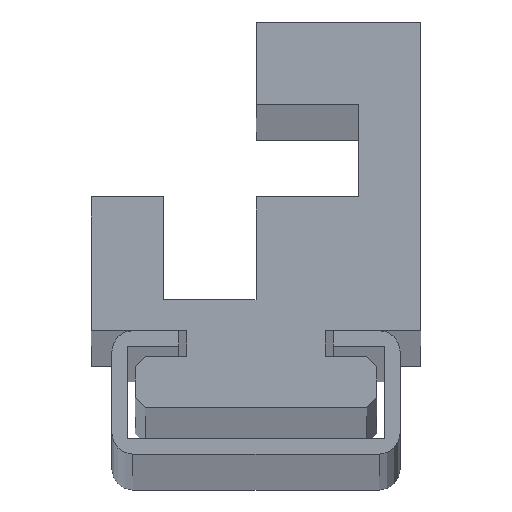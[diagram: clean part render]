
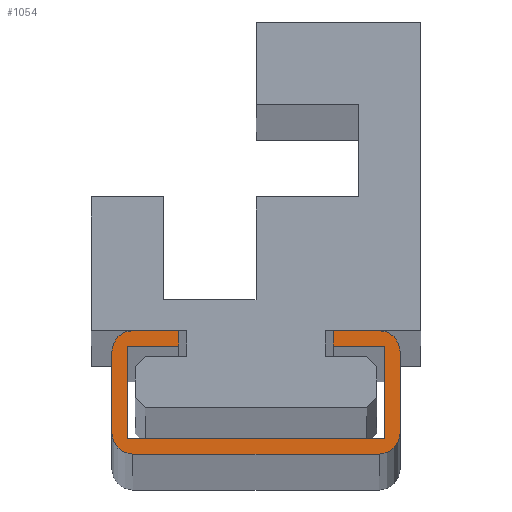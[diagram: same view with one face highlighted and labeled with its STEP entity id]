
A CAD part, top view. The second image highlights one B-rep face of the part: STEP entity #1054.
In plain terms, the highlighted planar face has unit normal (0, 0, 1).
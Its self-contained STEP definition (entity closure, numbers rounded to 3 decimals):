
#2 = LINE ( 'NONE', #567, #1009 ) ;
#16 = VERTEX_POINT ( 'NONE', #615 ) ;
#29 = CARTESIAN_POINT ( 'NONE',  ( 0., 10., 2000. ) ) ;
#30 = EDGE_LOOP ( 'NONE', ( #1495, #939, #748, #121, #330, #108, #325, #400, #1287, #1509, #1267, #1240, #85, #280, #868, #561 ) ) ;
#37 = LINE ( 'NONE', #1427, #530 ) ;
#48 = DIRECTION ( 'NONE',  ( 0., -1., 0. ) ) ;
#63 = CARTESIAN_POINT ( 'NONE',  ( 26., 10., 2000. ) ) ;
#68 = PLANE ( 'NONE',  #148 ) ;
#77 = CARTESIAN_POINT ( 'NONE',  ( 2., 2., 2000. ) ) ;
#78 = EDGE_CURVE ( 'NONE', #1441, #1166, #941, .T. ) ;
#85 = ORIENTED_EDGE ( 'NONE', *, *, #589, .T. ) ;
#92 = DIRECTION ( 'NONE',  ( 1., 0., 0. ) ) ;
#94 = EDGE_CURVE ( 'NONE', #438, #369, #420, .T. ) ;
#108 = ORIENTED_EDGE ( 'NONE', *, *, #78, .T. ) ;
#121 = ORIENTED_EDGE ( 'NONE', *, *, #925, .T. ) ;
#125 = CARTESIAN_POINT ( 'NONE',  ( 26.5, 1.5, 2000. ) ) ;
#146 = VERTEX_POINT ( 'NONE', #1243 ) ;
#148 = AXIS2_PLACEMENT_3D ( 'NONE', #389, #157, #1086 ) ;
#150 = DIRECTION ( 'NONE',  ( 1., 0., 0. ) ) ;
#157 = DIRECTION ( 'NONE',  ( 0., 0., 1. ) ) ;
#166 = LINE ( 'NONE', #196, #1085 ) ;
#174 = LINE ( 'NONE', #635, #747 ) ;
#196 = CARTESIAN_POINT ( 'NONE',  ( 1.5, 10.5, 2000. ) ) ;
#203 = DIRECTION ( 'NONE',  ( 0., 0., 1. ) ) ;
#221 = EDGE_CURVE ( 'NONE', #828, #261, #558, .T. ) ;
#222 = DIRECTION ( 'NONE',  ( 0., 1., 0. ) ) ;
#241 = VERTEX_POINT ( 'NONE', #1371 ) ;
#252 = DIRECTION ( 'NONE',  ( -1., 0., 0. ) ) ;
#257 = DIRECTION ( 'NONE',  ( 1., 0., 0. ) ) ;
#261 = VERTEX_POINT ( 'NONE', #1483 ) ;
#267 = CIRCLE ( 'NONE', #813, 2. ) ;
#278 = DIRECTION ( 'NONE',  ( 0., 1., 0. ) ) ;
#279 = DIRECTION ( 'NONE',  ( 1., 0., 0. ) ) ;
#280 = ORIENTED_EDGE ( 'NONE', *, *, #1351, .T. ) ;
#287 = EDGE_CURVE ( 'NONE', #146, #1193, #1145, .T. ) ;
#290 = CARTESIAN_POINT ( 'NONE',  ( 26.5, 10.5, 2000. ) ) ;
#300 = EDGE_CURVE ( 'NONE', #1355, #16, #2, .T. ) ;
#325 = ORIENTED_EDGE ( 'NONE', *, *, #961, .T. ) ;
#329 = LINE ( 'NONE', #125, #622 ) ;
#330 = ORIENTED_EDGE ( 'NONE', *, *, #518, .T. ) ;
#369 = VERTEX_POINT ( 'NONE', #463 ) ;
#389 = CARTESIAN_POINT ( 'NONE',  ( 6.5, 12., 2000. ) ) ;
#397 = CARTESIAN_POINT ( 'NONE',  ( 21.5, 10.5, 2000. ) ) ;
#400 = ORIENTED_EDGE ( 'NONE', *, *, #221, .T. ) ;
#410 = CIRCLE ( 'NONE', #696, 2. ) ;
#420 = LINE ( 'NONE', #435, #665 ) ;
#426 = EDGE_CURVE ( 'NONE', #369, #1355, #329, .T. ) ;
#435 = CARTESIAN_POINT ( 'NONE',  ( 26.5, 10.5, 2000. ) ) ;
#438 = VERTEX_POINT ( 'NONE', #290 ) ;
#439 = DIRECTION ( 'NONE',  ( 0., 0., 1. ) ) ;
#452 = VECTOR ( 'NONE', #252, 1000. ) ;
#463 = CARTESIAN_POINT ( 'NONE',  ( 26.5, 1.5, 2000. ) ) ;
#465 = VERTEX_POINT ( 'NONE', #1436 ) ;
#485 = DIRECTION ( 'NONE',  ( 0., 0., 1. ) ) ;
#507 = VERTEX_POINT ( 'NONE', #860 ) ;
#518 = EDGE_CURVE ( 'NONE', #465, #1441, #174, .T. ) ;
#530 = VECTOR ( 'NONE', #48, 1000. ) ;
#536 = DIRECTION ( 'NONE',  ( 1., 0., 0. ) ) ;
#548 = AXIS2_PLACEMENT_3D ( 'NONE', #63, #203, #1000 ) ;
#558 = LINE ( 'NONE', #1023, #1035 ) ;
#559 = EDGE_CURVE ( 'NONE', #1331, #930, #844, .T. ) ;
#560 = CARTESIAN_POINT ( 'NONE',  ( 6.5, 12., 2000. ) ) ;
#561 = ORIENTED_EDGE ( 'NONE', *, *, #678, .T. ) ;
#567 = CARTESIAN_POINT ( 'NONE',  ( 1.5, 1.5, 2000. ) ) ;
#581 = DIRECTION ( 'NONE',  ( -1., 0., 0. ) ) ;
#589 = EDGE_CURVE ( 'NONE', #16, #241, #166, .T. ) ;
#615 = CARTESIAN_POINT ( 'NONE',  ( 1.5, 10.5, 2000. ) ) ;
#622 = VECTOR ( 'NONE', #581, 1000. ) ;
#635 = CARTESIAN_POINT ( 'NONE',  ( 28., 0., 2000. ) ) ;
#643 = VECTOR ( 'NONE', #150, 1000. ) ;
#658 = CARTESIAN_POINT ( 'NONE',  ( 26., 12., 2000. ) ) ;
#665 = VECTOR ( 'NONE', #1453, 1000. ) ;
#678 = EDGE_CURVE ( 'NONE', #1193, #1223, #1349, .T. ) ;
#681 = VECTOR ( 'NONE', #278, 1000. ) ;
#689 = CARTESIAN_POINT ( 'NONE',  ( 28., 10., 2000. ) ) ;
#696 = AXIS2_PLACEMENT_3D ( 'NONE', #1418, #485, #257 ) ;
#704 = EDGE_CURVE ( 'NONE', #507, #1331, #267, .T. ) ;
#747 = VECTOR ( 'NONE', #1183, 1000. ) ;
#748 = ORIENTED_EDGE ( 'NONE', *, *, #559, .T. ) ;
#764 = DIRECTION ( 'NONE',  ( 1., 0., 0. ) ) ;
#771 = CARTESIAN_POINT ( 'NONE',  ( 2., 12., 2000. ) ) ;
#787 = VECTOR ( 'NONE', #1079, 1000. ) ;
#802 = CARTESIAN_POINT ( 'NONE',  ( 2., 0., 2000. ) ) ;
#813 = AXIS2_PLACEMENT_3D ( 'NONE', #77, #981, #536 ) ;
#825 = CARTESIAN_POINT ( 'NONE',  ( 28., 12., 2000. ) ) ;
#828 = VERTEX_POINT ( 'NONE', #1028 ) ;
#830 = LINE ( 'NONE', #967, #681 ) ;
#842 = LINE ( 'NONE', #397, #866 ) ;
#844 = LINE ( 'NONE', #1292, #643 ) ;
#860 = CARTESIAN_POINT ( 'NONE',  ( 0., 2., 2000. ) ) ;
#866 = VECTOR ( 'NONE', #279, 1000. ) ;
#868 = ORIENTED_EDGE ( 'NONE', *, *, #287, .T. ) ;
#925 = EDGE_CURVE ( 'NONE', #930, #465, #410, .T. ) ;
#930 = VERTEX_POINT ( 'NONE', #1060 ) ;
#939 = ORIENTED_EDGE ( 'NONE', *, *, #704, .T. ) ;
#941 = CIRCLE ( 'NONE', #548, 2. ) ;
#961 = EDGE_CURVE ( 'NONE', #1166, #828, #1174, .T. ) ;
#967 = CARTESIAN_POINT ( 'NONE',  ( 6.5, 10.5, 2000. ) ) ;
#981 = DIRECTION ( 'NONE',  ( 0., 0., 1. ) ) ;
#1000 = DIRECTION ( 'NONE',  ( 1., 0., 0. ) ) ;
#1009 = VECTOR ( 'NONE', #222, 1000. ) ;
#1023 = CARTESIAN_POINT ( 'NONE',  ( 21.5, 12., 2000. ) ) ;
#1028 = CARTESIAN_POINT ( 'NONE',  ( 21.5, 12., 2000. ) ) ;
#1035 = VECTOR ( 'NONE', #1380, 1000. ) ;
#1054 = ADVANCED_FACE ( 'NONE', ( #1104 ), #68, .T. ) ;
#1060 = CARTESIAN_POINT ( 'NONE',  ( 26., 0., 2000. ) ) ;
#1065 = EDGE_CURVE ( 'NONE', #1223, #507, #37, .T. ) ;
#1073 = EDGE_CURVE ( 'NONE', #261, #438, #842, .T. ) ;
#1079 = DIRECTION ( 'NONE',  ( -1., 0., 0. ) ) ;
#1085 = VECTOR ( 'NONE', #92, 1000. ) ;
#1086 = DIRECTION ( 'NONE',  ( 1., 0., 0. ) ) ;
#1104 = FACE_OUTER_BOUND ( 'NONE', #30, .T. ) ;
#1127 = CARTESIAN_POINT ( 'NONE',  ( 2., 10., 2000. ) ) ;
#1145 = LINE ( 'NONE', #560, #452 ) ;
#1166 = VERTEX_POINT ( 'NONE', #658 ) ;
#1174 = LINE ( 'NONE', #825, #787 ) ;
#1183 = DIRECTION ( 'NONE',  ( 0., 1., 0. ) ) ;
#1193 = VERTEX_POINT ( 'NONE', #771 ) ;
#1223 = VERTEX_POINT ( 'NONE', #29 ) ;
#1240 = ORIENTED_EDGE ( 'NONE', *, *, #300, .T. ) ;
#1243 = CARTESIAN_POINT ( 'NONE',  ( 6.5, 12., 2000. ) ) ;
#1267 = ORIENTED_EDGE ( 'NONE', *, *, #426, .T. ) ;
#1287 = ORIENTED_EDGE ( 'NONE', *, *, #1073, .T. ) ;
#1292 = CARTESIAN_POINT ( 'NONE',  ( 0., 0., 2000. ) ) ;
#1297 = CARTESIAN_POINT ( 'NONE',  ( 1.5, 1.5, 2000. ) ) ;
#1331 = VERTEX_POINT ( 'NONE', #802 ) ;
#1349 = CIRCLE ( 'NONE', #1426, 2. ) ;
#1351 = EDGE_CURVE ( 'NONE', #241, #146, #830, .T. ) ;
#1355 = VERTEX_POINT ( 'NONE', #1297 ) ;
#1371 = CARTESIAN_POINT ( 'NONE',  ( 6.5, 10.5, 2000. ) ) ;
#1380 = DIRECTION ( 'NONE',  ( 0., -1., 0. ) ) ;
#1418 = CARTESIAN_POINT ( 'NONE',  ( 26., 2., 2000. ) ) ;
#1426 = AXIS2_PLACEMENT_3D ( 'NONE', #1127, #439, #764 ) ;
#1427 = CARTESIAN_POINT ( 'NONE',  ( 0., 12., 2000. ) ) ;
#1436 = CARTESIAN_POINT ( 'NONE',  ( 28., 2., 2000. ) ) ;
#1441 = VERTEX_POINT ( 'NONE', #689 ) ;
#1453 = DIRECTION ( 'NONE',  ( 0., -1., 0. ) ) ;
#1483 = CARTESIAN_POINT ( 'NONE',  ( 21.5, 10.5, 2000. ) ) ;
#1495 = ORIENTED_EDGE ( 'NONE', *, *, #1065, .T. ) ;
#1509 = ORIENTED_EDGE ( 'NONE', *, *, #94, .T. ) ;
